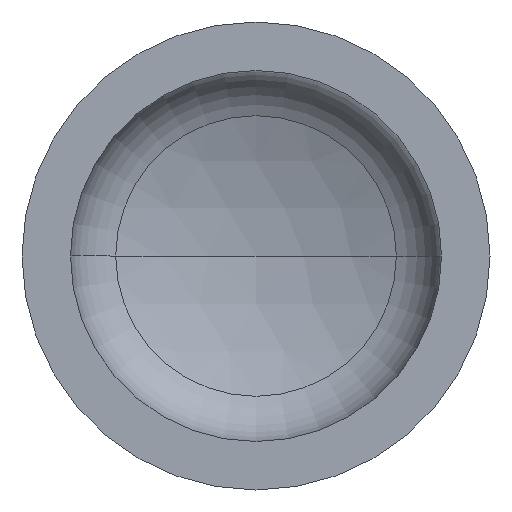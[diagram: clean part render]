
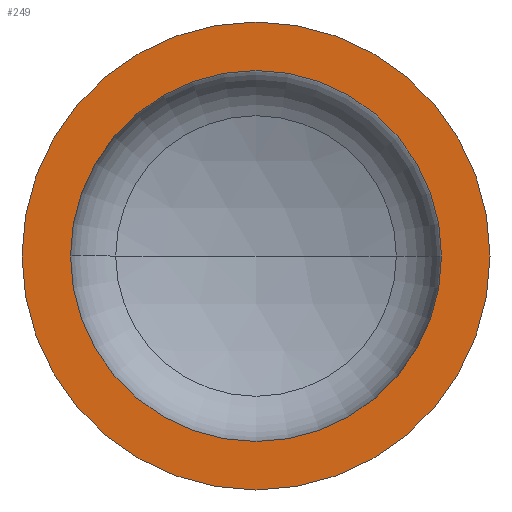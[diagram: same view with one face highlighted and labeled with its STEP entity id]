
A CAD part, front view. The second image highlights one B-rep face of the part: STEP entity #249.
In plain terms, the highlighted planar face has unit normal (0, -1, 0).
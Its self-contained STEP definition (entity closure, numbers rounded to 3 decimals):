
#7 = DIRECTION ( 'NONE',  ( 1., 0., 0. ) ) ;
#9 = DIRECTION ( 'NONE',  ( 1., 0., 0. ) ) ;
#14 = EDGE_LOOP ( 'NONE', ( #113, #131 ) ) ;
#18 = ORIENTED_EDGE ( 'NONE', *, *, #180, .F. ) ;
#23 = DIRECTION ( 'NONE',  ( 0., -1., 0. ) ) ;
#27 = CARTESIAN_POINT ( 'NONE',  ( 0., 0., 0. ) ) ;
#30 = VERTEX_POINT ( 'NONE', #280 ) ;
#35 = VERTEX_POINT ( 'NONE', #399 ) ;
#50 = DIRECTION ( 'NONE',  ( 0., -1., 0. ) ) ;
#54 = CARTESIAN_POINT ( 'NONE',  ( 0., 0., 0. ) ) ;
#56 = EDGE_LOOP ( 'NONE', ( #18, #58 ) ) ;
#58 = ORIENTED_EDGE ( 'NONE', *, *, #289, .F. ) ;
#71 = VERTEX_POINT ( 'NONE', #231 ) ;
#90 = AXIS2_PLACEMENT_3D ( 'NONE', #241, #240, #179 ) ;
#93 = AXIS2_PLACEMENT_3D ( 'NONE', #366, #208, #222 ) ;
#108 = VERTEX_POINT ( 'NONE', #137 ) ;
#113 = ORIENTED_EDGE ( 'NONE', *, *, #303, .T. ) ;
#123 = AXIS2_PLACEMENT_3D ( 'NONE', #54, #50, #181 ) ;
#127 = AXIS2_PLACEMENT_3D ( 'NONE', #27, #23, #9 ) ;
#131 = ORIENTED_EDGE ( 'NONE', *, *, #178, .T. ) ;
#132 = AXIS2_PLACEMENT_3D ( 'NONE', #146, #321, #7 ) ;
#137 = CARTESIAN_POINT ( 'NONE',  ( 550., 0., 0. ) ) ;
#146 = CARTESIAN_POINT ( 'NONE',  ( 0., 0., 0. ) ) ;
#153 = CIRCLE ( 'NONE', #90, 436. ) ;
#178 = EDGE_CURVE ( 'NONE', #35, #108, #236, .T. ) ;
#179 = DIRECTION ( 'NONE',  ( 1., 0., 0. ) ) ;
#180 = EDGE_CURVE ( 'NONE', #71, #30, #298, .T. ) ;
#181 = DIRECTION ( 'NONE',  ( 1., 0., 0. ) ) ;
#185 = PLANE ( 'NONE',  #93 ) ;
#208 = DIRECTION ( 'NONE',  ( 0., 1., 0. ) ) ;
#222 = DIRECTION ( 'NONE',  ( -1., 0., 0. ) ) ;
#231 = CARTESIAN_POINT ( 'NONE',  ( 436., 0., 0. ) ) ;
#236 = CIRCLE ( 'NONE', #132, 550. ) ;
#240 = DIRECTION ( 'NONE',  ( 0., -1., 0. ) ) ;
#241 = CARTESIAN_POINT ( 'NONE',  ( 0., 0., 0. ) ) ;
#249 = ADVANCED_FACE ( 'NONE', ( #287, #284 ), #185, .F. ) ;
#280 = CARTESIAN_POINT ( 'NONE',  ( -436., 0., 0. ) ) ;
#284 = FACE_OUTER_BOUND ( 'NONE', #14, .T. ) ;
#287 = FACE_BOUND ( 'NONE', #56, .T. ) ;
#289 = EDGE_CURVE ( 'NONE', #30, #71, #153, .T. ) ;
#298 = CIRCLE ( 'NONE', #127, 436. ) ;
#303 = EDGE_CURVE ( 'NONE', #108, #35, #343, .T. ) ;
#321 = DIRECTION ( 'NONE',  ( 0., -1., 0. ) ) ;
#343 = CIRCLE ( 'NONE', #123, 550. ) ;
#366 = CARTESIAN_POINT ( 'NONE',  ( -550., 0., 0. ) ) ;
#399 = CARTESIAN_POINT ( 'NONE',  ( -550., 0., 0. ) ) ;
